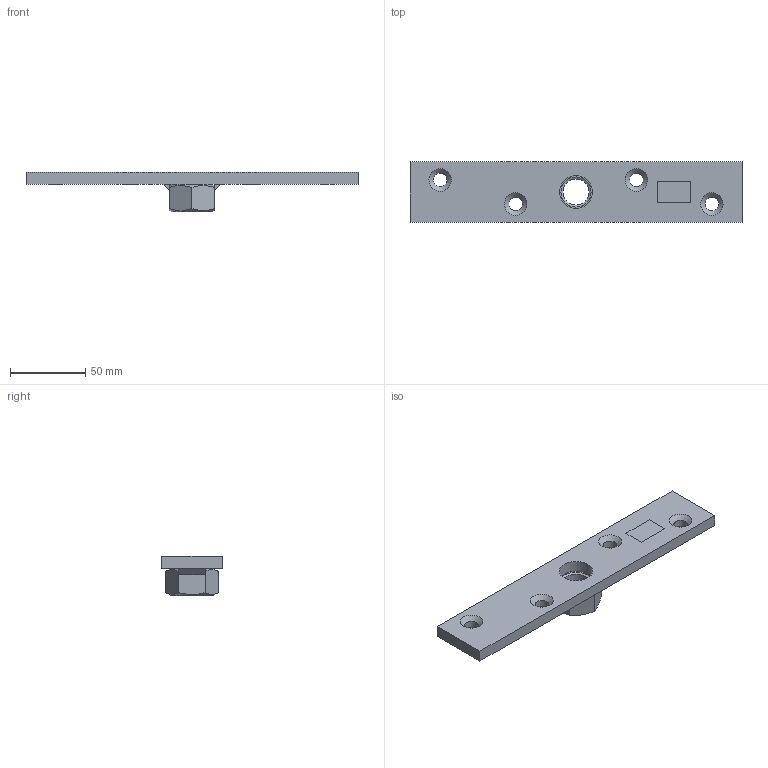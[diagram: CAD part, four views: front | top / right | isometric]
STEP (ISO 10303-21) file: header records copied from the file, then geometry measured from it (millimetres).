
FILE_DESCRIPTION(/* description */ ('Traegerplatte Nr.3'),/* implementation_level */ '2;1');
FILE_NAME(/* name */ 'Q:\sge-ma\Produktmanagement-STB\STB\Workspace\stp\010336630.stp',/* time_stamp */ '2016-07-19T08:48:32+02:00',/* author */ ('avschreier'),/* organization */ (''),/* preprocessor_version */ 'ST-DEVELOPER v16.1',/* originating_system */ 'Autodesk Inventor 2016',/* authorisation */ '');
FILE_SCHEMA (('AUTOMOTIVE_DESIGN { 1 0 10303 214 3 1 1 }'));
Length unit declared in the file: millimetre
Products named in the file (4): 010336630_Schweißnähte; 337000257; DIN_EN_ISO_4032-M20_en; 010336630
Assembly tree (3 placements, depth 2):
  010336630
    010336630_Schweißnähte
    337000257
    DIN_EN_ISO_4032-M20_en
Bounding box: 220 x 40 x 26 mm (x, y, z)
Volume: 74525.6 mm3; surface area: 26033.5 mm2
Topology: 4 solids, 4 shells, 43 faces, 95 edges, 61 vertices
Faces by surface type: plane 29, cone 8, cylinder 6
Full cylindrical faces by diameter (mm): 9 x4, 17.294 x1, 22 x1
Entity records: 1224 total; most frequent: CARTESIAN_POINT 214, DIRECTION 188, ORIENTED_EDGE 160, EDGE_CURVE 80, EDGE_LOOP 70, AXIS2_PLACEMENT_3D 70, VERTEX_POINT 60, LINE 48
